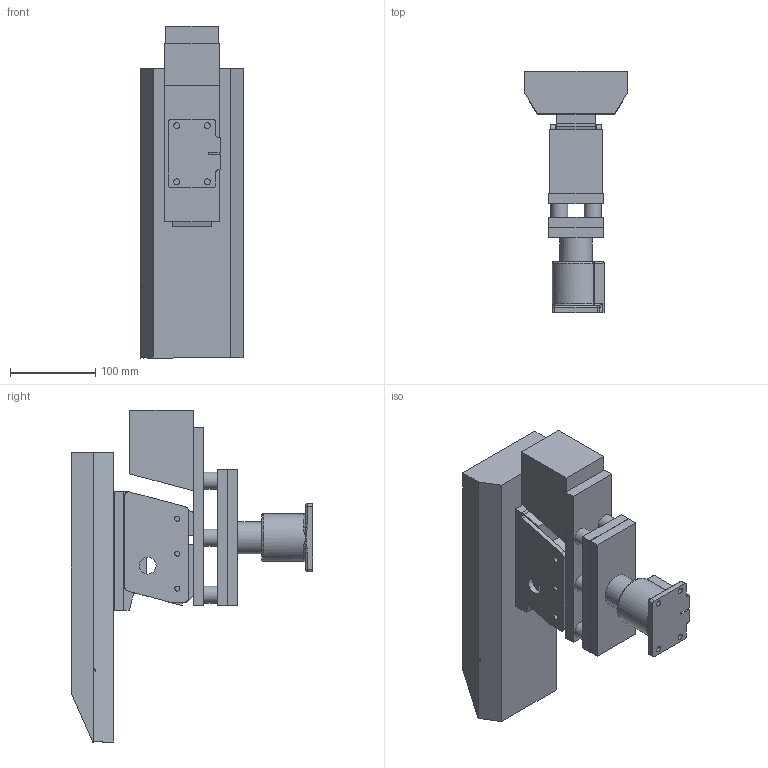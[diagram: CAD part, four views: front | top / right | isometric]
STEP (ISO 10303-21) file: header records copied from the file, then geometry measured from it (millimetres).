
FILE_DESCRIPTION(/* description */ (''),/* implementation_level */ '2;1');
FILE_NAME(/* name */ 'K:\0_도면 변환 요청의건_220317\Hopper_AIVE2.1.stp',/* time_stamp */ '2022-03-17T18:29:51+09:00',/* author */ ('USER'),/* organization */ (''),/* preprocessor_version */ 'ST-DEVELOPER v18',/* originating_system */ 'Autodesk Inventor 2020',/* authorisation */ '');
FILE_SCHEMA (('AUTOMOTIVE_DESIGN { 1 0 10303 214 3 1 1 }'));
Length unit declared in the file: millimetre
Products named in the file (4): Hopper; Hopper-01; Hopper-02; Hopper-03
Assembly tree (3 placements, depth 2):
  Hopper
    Hopper-01
    Hopper-02
    Hopper-03
Bounding box: 120 x 283.53 x 390 mm (x, y, z)
Volume: 1743198.1 mm3; surface area: 346443.6 mm2
Topology: 4 solids, 4 shells, 274 faces, 727 edges, 464 vertices
Faces by surface type: plane 197, cylinder 58, bspline 16, torus 3
Full cylindrical faces by diameter (mm): 6 x6, 6.8 x4, 20 x8, 38 x1
Entity records: 9029 total; most frequent: CARTESIAN_POINT 1996, ORIENTED_EDGE 1430, DIRECTION 1374, EDGE_CURVE 715, LINE 550, VECTOR 550, VERTEX_POINT 460, AXIS2_PLACEMENT_3D 412
